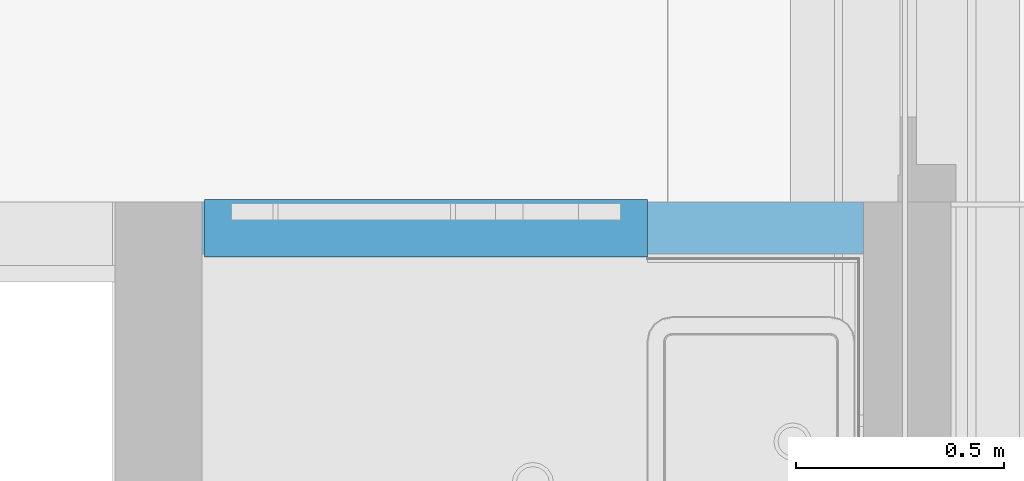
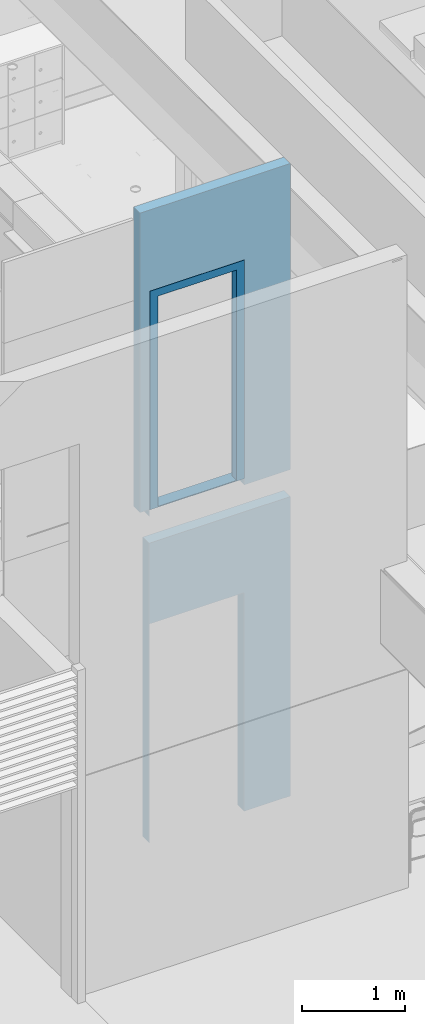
# One storey, part 62 of 347: 1 building element part, 2 openings, 1 element without a shape of its own, plus 1 element that does not belong to this part.
"""IFC2X3 building model written with IfcOpenShell, lengths in millimetres."""

from ifc_helpers import new_model, entity, si_unit, converted_unit, derived_unit, money_unit, direction, frame, origin_with_axes, place, context, subcontext, project, spatial, faceted_brep, source, transform, mapped, material, type_object, element, fill, aggregate, save


model = new_model("IFC2X3")

# Units and contexts
model_context = context("Model", 3, precision=0.01, world=origin_with_axes(), true_north=direction((0.0, 1.0)))
plan_context = context("Plan", 3, precision=0.01, world=origin_with_axes(), true_north=direction((0.0, 1.0)))
body_context = subcontext(model_context, "Body", "Model", "MODEL_VIEW")
ifc_project = project(units=[si_unit("LENGTHUNIT", "METRE", prefix="MILLI"), si_unit("AREAUNIT", "SQUARE_METRE"), si_unit("VOLUMEUNIT", "CUBIC_METRE"), converted_unit("PLANEANGLEUNIT", "DEGREE", entity("IfcPlaneAngleMeasure", 0.0174532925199), si_unit("PLANEANGLEUNIT", "RADIAN"), dimensions=[0, 0, 0, 0, 0, 0, 0]), money_unit("EUR"), converted_unit("TIMEUNIT", "Year", entity("IfcTimeMeasure", 31556926.0), si_unit("TIMEUNIT", "SECOND"), dimensions=[0, 0, 1, 0, 0, 0, 0]), si_unit("MASSUNIT", "GRAM", prefix="KILO"), si_unit("THERMODYNAMICTEMPERATUREUNIT", "DEGREE_CELSIUS"), si_unit("LUMINOUSINTENSITYUNIT", "LUMEN"), si_unit("ENERGYUNIT", "JOULE", prefix="MEGA"), derived_unit("THERMALCONDUCTANCEUNIT", [(si_unit("POWERUNIT", "WATT"), 1), (si_unit("LENGTHUNIT", "METRE"), -1), (si_unit("THERMODYNAMICTEMPERATUREUNIT", "KELVIN"), -1)]), derived_unit("SPECIFICHEATCAPACITYUNIT", [(si_unit("ENERGYUNIT", "JOULE"), 1), (si_unit("MASSUNIT", "GRAM", prefix="KILO"), -1), (si_unit("THERMODYNAMICTEMPERATUREUNIT", "KELVIN"), -1)]), derived_unit("MASSDENSITYUNIT", [(si_unit("MASSUNIT", "GRAM", prefix="KILO"), 1), (si_unit("VOLUMEUNIT", "CUBIC_METRE"), -1)])], contexts=[model_context, plan_context])

# Site, building, storey
site_placement = place(None, origin_with_axes())
site = spatial("IfcSite", under=ifc_project, at=site_placement, Name="Site", CompositionType="ELEMENT")
building_placement = place(site_placement, origin_with_axes())
building = spatial("IfcBuilding", under=site, at=building_placement, Name="Naam gebouw", CompositionType="ELEMENT")
storey_placement = place(building_placement, origin_with_axes())
storey = spatial("IfcBuildingStorey", under=building, at=storey_placement, Name="begane grond", CompositionType="ELEMENT", Elevation=0.0)

# Wall, openings, door, building element part
ifc_material = material(Name="ALG - LICHTE SCHEIDINGSWAND")
wall_type = type_object("IfcWallType", Name="ALG LSW 125 125", PredefinedType="NOTDEFINED")
wall_placement = place(storey_placement, frame((42857.0, 27975.0, 0.0), z_axis=(0.0, 0.0, 1.0), x_axis=(1.0, 0.0, 0.0)))
wall = element("IfcWall", 1, at=wall_placement, inside=storey, type_object=wall_type, material=ifc_material, Name="22_GF 125 ECO DGS/2.75.2A", context=body_context, shape_type="Brep", body=[
    faceted_brep([(5.0, 0.0, 2600.0), (5.0, 0.0, 0.0), (0.0, 0.0, 0.0), (0.0, 0.0, 3560.0), (1588.0, 0.0, 3560.0), (1588.0, 0.0, 0.0), (1069.0, 0.0, 0.0), (1069.0, 0.0, 2600.0), (5.0, -125.0, 2600.0), (5.0, -125.0, 0.0), (0.0, -125.0, 0.0), (0.0, -125.0, 3560.0), (1588.0, -125.0, 3560.0), (1588.0, -125.0, 0.0), (1069.0, -125.0, 0.0), (1069.0, -125.0, 2600.0)], [[[0, 1, 2, 3, 4, 5, 6, 7]], [[1, 0, 8, 9]], [[1, 9, 10, 2]], [[11, 3, 2, 10]], [[12, 4, 3, 11]], [[4, 12, 13, 5]], [[14, 6, 5, 13]], [[7, 6, 14, 15]], [[0, 7, 15, 8]], [[15, 14, 13, 12, 11, 10, 9, 8]]]),
    faceted_brep([(5.0, 0.0, 6560.0), (5.0, 0.0, 3960.0), (5.0, 0.0, 3880.0), (0.0, 0.0, 3880.0), (0.0, 0.0, 3960.0), (-100.0, 0.0, 3960.0), (-100.0, 0.0, 7520.0), (1588.0, 0.0, 7520.0), (1588.0, 0.0, 3880.0), (1069.0, 0.0, 3880.0), (1069.0, 0.0, 3960.0), (1069.0, 0.0, 6560.0), (5.0, -125.0, 6560.0), (5.0, -125.0, 3960.0), (5.0, -125.0, 3880.0), (0.0, -125.0, 3880.0), (0.0, -125.0, 3960.0), (-100.0, -125.0, 3960.0), (-100.0, -125.0, 7520.0), (1588.0, -125.0, 7520.0), (1588.0, -125.0, 3880.0), (1069.0, -125.0, 3880.0), (1069.0, -125.0, 3960.0), (1069.0, -125.0, 6560.0)], [[[0, 1, 2, 3, 4, 5, 6, 7, 8, 9, 10, 11]], [[1, 0, 12, 13]], [[1, 13, 14, 2]], [[2, 14, 15, 3]], [[3, 15, 16, 4]], [[16, 17, 5, 4]], [[17, 18, 6, 5]], [[7, 6, 18, 19]], [[20, 8, 7, 19]], [[21, 9, 8, 20]], [[22, 10, 9, 21]], [[11, 10, 22, 23]], [[0, 11, 23, 12]], [[23, 22, 21, 20, 19, 18, 17, 16, 15, 14, 13, 12]]]),
])
opening_1_placement = place(wall_placement, frame((537.0, 0.0, 0.0), z_axis=(0.0, 0.0, 1.0), x_axis=(1.0, 0.0, 0.0)))
element("IfcOpeningElement", 2, at=opening_1_placement, cuts=wall, Name="32_01.07", context=body_context, shape_type="Brep", body=[
    faceted_brep([(-532.0, 257.0, 2600.0), (-532.0, 257.0, 0.0), (-532.0, -125.0, 0.0), (-532.0, -125.0, 2600.0), (532.0, 257.0, 2600.0), (532.0, 257.0, 0.0), (532.0, -125.0, 0.0), (532.0, -125.0, 2600.0)], [[[0, 1, 2, 3]], [[0, 4, 5, 1]], [[1, 5, 6, 2]], [[3, 2, 6, 7]], [[4, 0, 3, 7]], [[5, 4, 7, 6]]]),
])
opening_2_placement = place(wall_placement, frame((537.0, 0.0, 3960.0), z_axis=(0.0, 0.0, 1.0), x_axis=(1.0, 0.0, 0.0)))
opening_2 = element("IfcOpeningElement", 3, at=opening_2_placement, cuts=wall, Name="32_01.07", context=body_context, shape_type="Brep", body=[
    faceted_brep([(-532.0, 257.0, 2600.0), (-532.0, 257.0, 0.0), (-532.0, -125.0, 0.0), (-532.0, -125.0, 2600.0), (532.0, 257.0, 2600.0), (532.0, 257.0, 0.0), (532.0, -125.0, 0.0), (532.0, -125.0, 2600.0)], [[[0, 1, 2, 3]], [[0, 4, 5, 1]], [[1, 5, 6, 2]], [[3, 2, 6, 7]], [[4, 0, 3, 7]], [[5, 4, 7, 6]]]),
])
door_style = type_object("IfcDoorStyle", Name="D1 25", ConstructionType="NOTDEFINED", OperationType="SINGLE_SWING_LEFT", ParameterTakesPrecedence=False, Sizeable=False)
door_placement = place(opening_2_placement, frame((-532.0, 0.0, 0.0), z_axis=(0.0, 0.0, 1.0), x_axis=(1.0, 0.0, 0.0)))
door = element("IfcDoor", 4, at=door_placement, inside=storey, type_object=door_style, Name="32_01.07", ObjectType="DOOR", OverallHeight=2600.0, OverallWidth=1064.0)
fill(opening_2, door)
shared_shape = source(origin_with_axes(), body_context, "Body", "Brep", [
    faceted_brep([(467.0, -40.0, 10.0), (467.0, 0.0, 10.0), (-467.0, 0.0, 10.0), (-467.0, -40.0, 10.0), (-442.0, -40.0, 10.0), (-442.0, -139.0, 10.0), (442.0, -139.0, 10.0), (442.0, -40.0, 10.0), (467.0, -40.0, 0.0), (467.0, 0.0, 0.0), (-467.0, 0.0, 0.0), (-467.0, -40.0, 0.0), (-442.0, -40.0, 0.0), (-442.0, -139.0, 0.0), (442.0, -139.0, 0.0), (442.0, -40.0, 0.0)], [[[0, 1, 2, 3, 4, 5, 6, 7]], [[8, 9, 1, 0]], [[9, 10, 2, 1]], [[11, 3, 2, 10]], [[3, 11, 12, 4]], [[5, 4, 12, 13]], [[6, 5, 13, 14]], [[14, 15, 7, 6]], [[7, 15, 8, 0]], [[15, 14, 13, 12, 11, 10, 9, 8]]]),
    faceted_brep([(442.0, -50.0, 0.0), (442.0, -139.0, 0.0), (442.0, -139.0, 2510.0), (442.0, -50.0, 2510.0), (467.0, -50.0, 0.0), (467.0, 0.0, 0.0), (532.0, 0.0, 0.0), (532.0, -139.0, 0.0), (532.0, -139.0, 2510.0), (467.0, -50.0, 2510.0), (532.0, 0.0, 2510.0), (467.0, 0.0, 2510.0)], [[[0, 1, 2, 3]], [[4, 5, 6, 7, 1, 0]], [[1, 7, 8, 2]], [[9, 3, 2, 8, 10, 11]], [[9, 4, 0, 3]], [[11, 5, 4, 9]], [[11, 10, 6, 5]], [[6, 10, 8, 7]]]),
    faceted_brep([(-467.0, -50.0, 2510.0), (-467.0, 0.0, 2510.0), (-532.0, 0.0, 2510.0), (-532.0, -139.0, 2510.0), (-442.0, -139.0, 2510.0), (-442.0, -50.0, 2510.0), (-467.0, -50.0, 0.0), (-467.0, 0.0, 0.0), (-532.0, 0.0, 0.0), (-532.0, -139.0, 0.0), (-442.0, -139.0, 0.0), (-442.0, -50.0, 0.0)], [[[0, 1, 2, 3, 4, 5]], [[0, 6, 7, 1]], [[7, 8, 2, 1]], [[2, 8, 9, 3]], [[3, 9, 10, 4]], [[5, 4, 10, 11]], [[5, 11, 6, 0]], [[6, 11, 10, 9, 8, 7]]]),
    faceted_brep([(467.0, 0.0, 2535.0), (-467.0, 0.0, 2535.0), (-467.0, 0.0, 2510.0), (-532.0, 0.0, 2510.0), (-532.0, 0.0, 2600.0), (532.0, 0.0, 2600.0), (532.0, 0.0, 2510.0), (467.0, 0.0, 2510.0), (467.0, -50.0, 2535.0), (-467.0, -50.0, 2535.0), (-467.0, -50.0, 2510.0), (-442.0, -50.0, 2510.0), (-442.0, -139.0, 2510.0), (-532.0, -139.0, 2510.0), (-532.0, -139.0, 2600.0), (532.0, -139.0, 2600.0), (532.0, -139.0, 2510.0), (467.0, -50.0, 2510.0), (442.0, -139.0, 2510.0), (442.0, -50.0, 2510.0)], [[[0, 1, 2, 3, 4, 5, 6, 7]], [[0, 8, 9, 1]], [[1, 9, 10, 2]], [[10, 11, 12, 13, 3, 2]], [[4, 3, 13, 14]], [[5, 4, 14, 15]], [[6, 5, 15, 16]], [[17, 7, 6, 16, 18, 19]], [[7, 17, 8, 0]], [[10, 9, 8, 17, 19, 11]], [[19, 18, 12, 11]], [[12, 18, 16, 15, 14, 13]]]),
])
building_element_part_placement = place(door_placement, origin_with_axes())
building_element_part = element("IfcBuildingElementPart", 5, at=building_element_part_placement, context=body_context, shape_type="MappedRepresentation", body=[
    mapped(shared_shape, transform((532.0, 7.0, 0.0))),
])
aggregate(door, [building_element_part])

save(model, "model.ifc")
